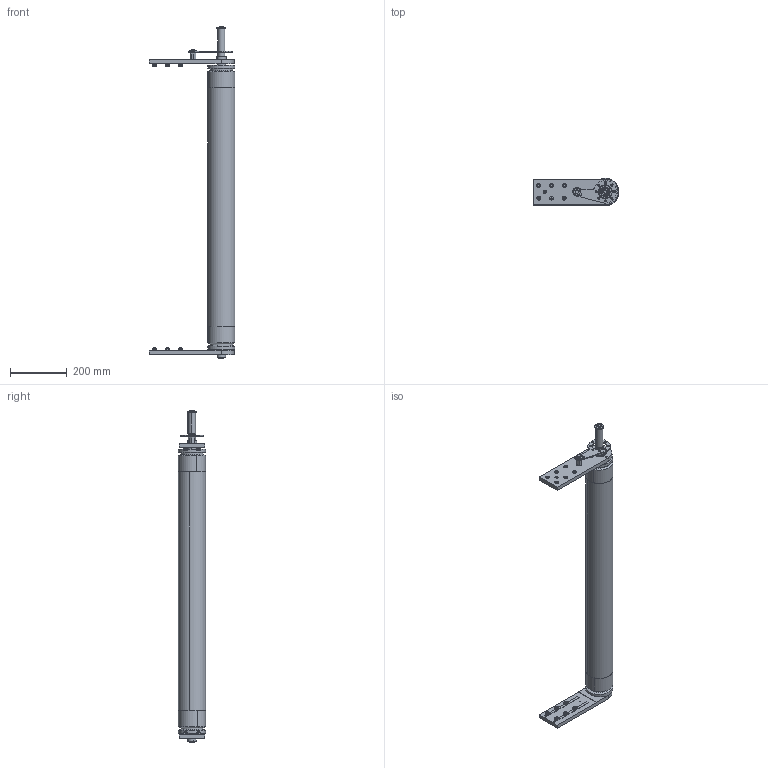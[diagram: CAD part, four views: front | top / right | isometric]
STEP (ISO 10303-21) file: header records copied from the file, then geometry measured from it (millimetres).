
FILE_DESCRIPTION (( 'STEP AP203' ), '1' );
FILE_NAME ('084.095.KDZ.49.STEP', '2018-03-12T15:25:01', ( '' ), ( '' ), 'SwSTEP 2.0', 'SolidWorks 2016', '' );
FILE_SCHEMA (( 'CONFIG_CONTROL_DESIGN' ));
Length unit declared in the file: millimetre
Products named in the file (23): Parte104^084.000.A02; circlip for shafts normal_din_Circlip DIN 471 - 25 x 1.2; 084.808.002_084.808.002; 084.807.005; 084.802.027; GRANI A PUNTA PIATTA UNI 5923_M8x25 UNI 5923; VITI TE UNI 5739_M8x25 UNI 5739; RONDELLE FASCIA LARGA UNI 6593_8.4x32 UNI 6593; 084.808.003_084.808.003; RONDELLE FASCIA LARGA UNI 6593_8.4x24 UNI 6593; 084.302.000 DADI ALUSIC 13x13-1_084.302.004; 084.000.A02_SENZA DADO; 084.802.034_084.802.034; VITI TE UNI 5739_M8x16 UNI 5739; 449.014.106; 084.095.KDZ.49; 084.802.019_084.802.019; CHIAVETTE_A 8x7x50 UNI 6604-69; 084.301.000 VITI ALUSIC_084.301.003; 084.812.022.1000_Default<A macchina>; 084.812.023.1000_Default<A macchina>; CHIAVETTE_A 8x7x70 UNI 6604-69; DADO ESAGONALE AUTOBLOCCANTE RIBASSATO M30-UNI 7474
Assembly tree (46 placements, depth 3):
  084.095.KDZ.49
    084.812.023.1000_Default<A macchina>
    084.812.022.1000_Default<A macchina>
    449.014.106  x2
    084.808.003_084.808.003
    084.808.002_084.808.002
    084.802.034_084.802.034
    084.802.019_084.802.019
    DADO ESAGONALE AUTOBLOCCANTE RIBASSATO M30-UNI 7474  x2
    VITI TE UNI 5739_M8x16 UNI 5739
    RONDELLE FASCIA LARGA UNI 6593_8.4x32 UNI 6593
    CHIAVETTE_A 8x7x70 UNI 6604-69
    CHIAVETTE_A 8x7x50 UNI 6604-69
    084.301.000 VITI ALUSIC_084.301.003  x12
    084.302.000 DADI ALUSIC 13x13-1_084.302.004  x12
    circlip for shafts normal_din_Circlip DIN 471 - 25 x 1.2
    084.000.A02_SENZA DADO
      084.802.027
      084.807.005
      Parte104^084.000.A02
      GRANI A PUNTA PIATTA UNI 5923_M8x25 UNI 5923
      RONDELLE FASCIA LARGA UNI 6593_8.4x24 UNI 6593
      VITI TE UNI 5739_M8x25 UNI 5739
Bounding box: 302.98 x 95.97 x 1172.33 mm (x, y, z)
Volume: 4068082.6 mm3; surface area: 1245501.5 mm2
Topology: 50 solids, 51 shells, 1162 faces, 2899 edges, 1872 vertices
Faces by surface type: plane 425, cylinder 390, cone 118, torus 116, bspline 104, sphere 9
Entity records: 24551 total; most frequent: CARTESIAN_POINT 5281, DIRECTION 3449, ORIENTED_EDGE 3312, EDGE_CURVE 1656, AXIS2_PLACEMENT_3D 1356, VERTEX_POINT 1074, EDGE_LOOP 786, VECTOR 737
